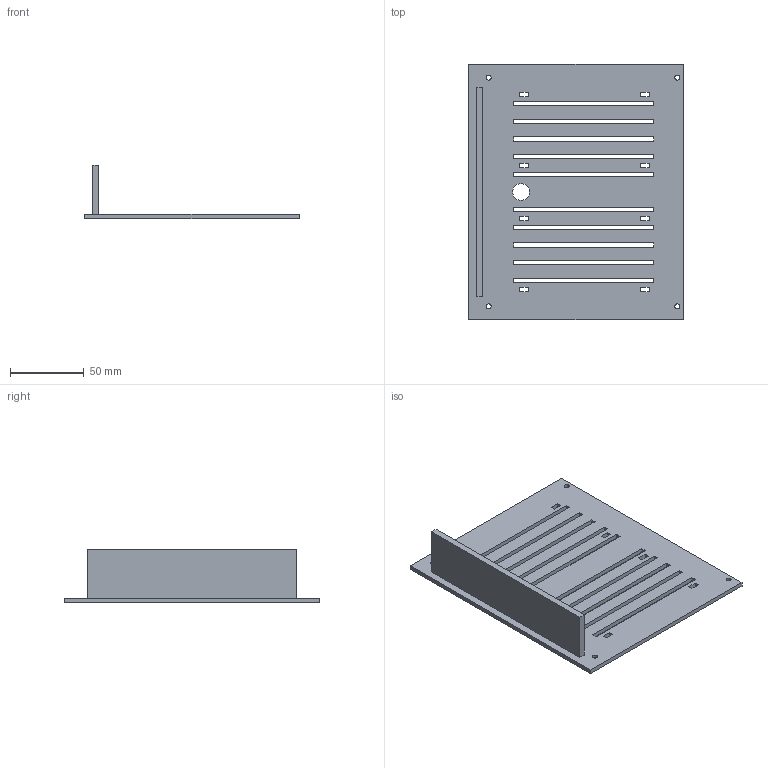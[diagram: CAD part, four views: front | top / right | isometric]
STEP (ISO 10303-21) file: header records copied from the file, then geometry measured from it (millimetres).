
FILE_DESCRIPTION(('Open CASCADE Model'),'2;1');
FILE_NAME('Open CASCADE Shape Model','2026-10-23T16:06:25',('Author'),( 'Open CASCADE'),'Open CASCADE STEP processor 7.8','Open CASCADE 7.8' ,'Unknown');
FILE_SCHEMA(('AUTOMOTIVE_DESIGN { 1 0 10303 214 1 1 1 1 }'));
Length unit declared in the file: millimetre
Products named in the file (1): Open CASCADE STEP translator 7.8 2
Bounding box: 145.25 x 173.2 x 36.4 mm (x, y, z)
Volume: 85040.5 mm3; surface area: 62258.3 mm2
Topology: 1 solids, 1 shells, 88 faces, 255 edges, 170 vertices
Faces by surface type: plane 83, cylinder 5
Full cylindrical faces by diameter (mm): 3.4 x4, 11.5 x1
Entity records: 6296 total; most frequent: CARTESIAN_POINT 1084, DIRECTION 943, LINE 745, VECTOR 745, ORIENTED_EDGE 510, PCURVE 510, DEFINITIONAL_REPRESENTATION 510, EDGE_CURVE 255
